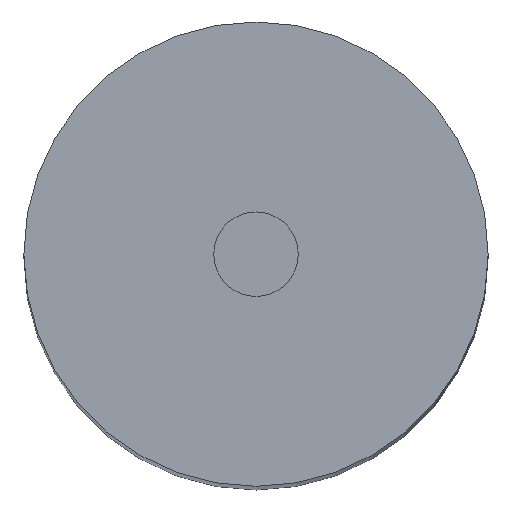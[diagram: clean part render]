
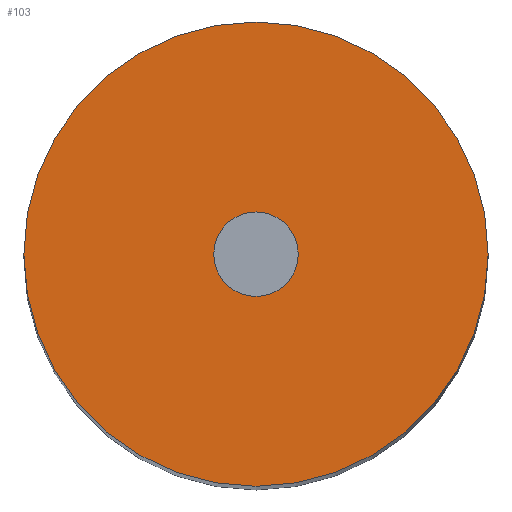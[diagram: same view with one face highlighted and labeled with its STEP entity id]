
A CAD part, top view. The second image highlights one B-rep face of the part: STEP entity #103.
In plain terms, the highlighted planar face has unit normal (0, 0, 1) as drawn and (-1, 0, 0) by its records, which use the part's own axes.
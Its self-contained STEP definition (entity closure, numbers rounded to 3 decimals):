
#77 = VERTEX_POINT ( 'NONE', #296 ) ;
#83 = VERTEX_POINT ( 'NONE', #151 ) ;
#85 = EDGE_CURVE ( 'NONE', #83, #90, #150, .T. ) ;
#88 = EDGE_CURVE ( 'NONE', #77, #89, #181, .T. ) ;
#89 = VERTEX_POINT ( 'NONE', #176 ) ;
#90 = VERTEX_POINT ( 'NONE', #175 ) ;
#102 = EDGE_CURVE ( 'NONE', #89, #77, #189, .T. ) ;
#103 = ADVANCED_FACE ( 'NONE', ( #343, #357 ), #362, .F. ) ;
#104 = EDGE_LOOP ( 'NONE', ( #105, #116 ) ) ;
#105 = ORIENTED_EDGE ( 'NONE', *, *, #115, .F. ) ;
#108 = DIRECTION ( 'NONE',  ( 0., 0., -1. ) ) ;
#115 = EDGE_CURVE ( 'NONE', #90, #83, #337, .T. ) ;
#116 = ORIENTED_EDGE ( 'NONE', *, *, #85, .F. ) ;
#117 = EDGE_LOOP ( 'NONE', ( #118, #119 ) ) ;
#118 = ORIENTED_EDGE ( 'NONE', *, *, #102, .F. ) ;
#119 = ORIENTED_EDGE ( 'NONE', *, *, #88, .F. ) ;
#149 = CARTESIAN_POINT ( 'NONE',  ( 0., 0., 0. ) ) ;
#150 = CIRCLE ( 'NONE', #290, 0.5 ) ;
#151 = CARTESIAN_POINT ( 'NONE',  ( 0., 0., -0.5 ) ) ;
#175 = CARTESIAN_POINT ( 'NONE',  ( 0., 0., 0.5 ) ) ;
#176 = CARTESIAN_POINT ( 'NONE',  ( 0., 0., 2.75 ) ) ;
#177 = DIRECTION ( 'NONE',  ( 0., 0., -1. ) ) ;
#178 = DIRECTION ( 'NONE',  ( 1., 0., 0. ) ) ;
#179 = CARTESIAN_POINT ( 'NONE',  ( 0., 0., 0. ) ) ;
#180 = AXIS2_PLACEMENT_3D ( 'NONE', #179, #178, #177 ) ;
#181 = CIRCLE ( 'NONE', #180, 2.75 ) ;
#186 = DIRECTION ( 'NONE',  ( 1., 0., 0. ) ) ;
#187 = CARTESIAN_POINT ( 'NONE',  ( 0., 0., 0. ) ) ;
#188 = AXIS2_PLACEMENT_3D ( 'NONE', #187, #186, #108 ) ;
#189 = CIRCLE ( 'NONE', #188, 2.75 ) ;
#288 = DIRECTION ( 'NONE',  ( 0., 0., 1. ) ) ;
#289 = DIRECTION ( 'NONE',  ( -1., 0., 0. ) ) ;
#290 = AXIS2_PLACEMENT_3D ( 'NONE', #149, #289, #288 ) ;
#296 = CARTESIAN_POINT ( 'NONE',  ( 0., 0., -2.75 ) ) ;
#332 = CARTESIAN_POINT ( 'NONE',  ( 0., 0., 0. ) ) ;
#333 = DIRECTION ( 'NONE',  ( 0., 0., 1. ) ) ;
#334 = DIRECTION ( 'NONE',  ( -1., 0., 0. ) ) ;
#335 = CARTESIAN_POINT ( 'NONE',  ( 0., 0., 0. ) ) ;
#336 = AXIS2_PLACEMENT_3D ( 'NONE', #335, #334, #333 ) ;
#337 = CIRCLE ( 'NONE', #336, 0.5 ) ;
#341 = DIRECTION ( 'NONE',  ( 0., 0., -1. ) ) ;
#342 = DIRECTION ( 'NONE',  ( 1., 0., 0. ) ) ;
#343 = FACE_BOUND ( 'NONE', #104, .T. ) ;
#357 = FACE_OUTER_BOUND ( 'NONE', #117, .T. ) ;
#362 = PLANE ( 'NONE',  #364 ) ;
#364 = AXIS2_PLACEMENT_3D ( 'NONE', #332, #342, #341 ) ;
